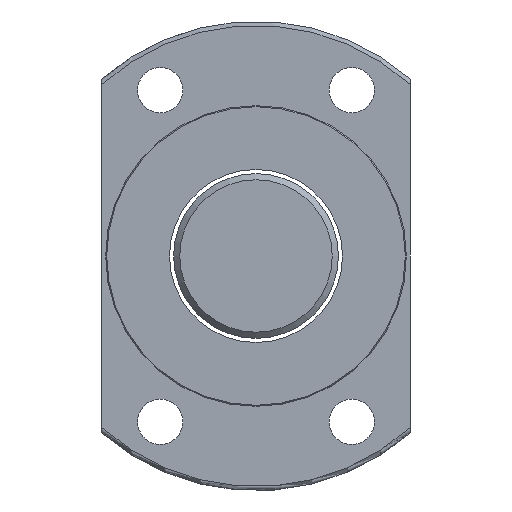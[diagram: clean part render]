
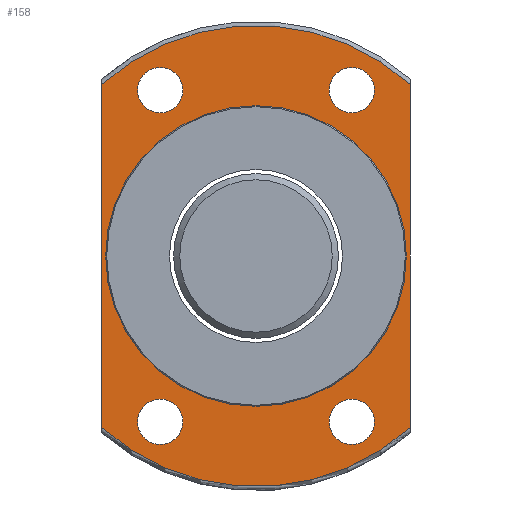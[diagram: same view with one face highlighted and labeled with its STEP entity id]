
A CAD part, left-side view. The second image highlights one B-rep face of the part: STEP entity #158.
In plain terms, the highlighted planar face has unit normal (-1, 0, 0).
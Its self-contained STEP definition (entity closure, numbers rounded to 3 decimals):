
#97=LINE('',#866,#105);
#98=LINE('',#868,#106);
#105=VECTOR('',#693,1.);
#106=VECTOR('',#694,1.);
#158=ADVANCED_FACE('',(#204,#205,#206,#207,#250,#208),#187,.T.);
#187=PLANE('',#598);
#204=FACE_BOUND('',#278,.T.);
#205=FACE_BOUND('',#279,.T.);
#206=FACE_BOUND('',#280,.T.);
#207=FACE_BOUND('',#281,.T.);
#208=FACE_BOUND('',#283,.T.);
#250=FACE_OUTER_BOUND('',#282,.T.);
#278=EDGE_LOOP('',(#355));
#279=EDGE_LOOP('',(#356));
#280=EDGE_LOOP('',(#357));
#281=EDGE_LOOP('',(#358));
#282=EDGE_LOOP('',(#359,#360,#361,#362));
#283=EDGE_LOOP('',(#363));
#355=ORIENTED_EDGE('',*,*,#499,.F.);
#356=ORIENTED_EDGE('',*,*,#500,.F.);
#357=ORIENTED_EDGE('',*,*,#501,.F.);
#358=ORIENTED_EDGE('',*,*,#502,.F.);
#359=ORIENTED_EDGE('',*,*,#503,.F.);
#360=ORIENTED_EDGE('',*,*,#492,.F.);
#361=ORIENTED_EDGE('',*,*,#504,.T.);
#362=ORIENTED_EDGE('',*,*,#505,.F.);
#363=ORIENTED_EDGE('',*,*,#506,.T.);
#445=VERTEX_POINT('',#824);
#447=VERTEX_POINT('',#833);
#452=VERTEX_POINT('',#859);
#453=VERTEX_POINT('',#861);
#454=VERTEX_POINT('',#863);
#455=VERTEX_POINT('',#865);
#456=VERTEX_POINT('',#867);
#457=VERTEX_POINT('',#869);
#458=VERTEX_POINT('',#872);
#492=EDGE_CURVE('',#447,#445,#543,.T.);
#499=EDGE_CURVE('',#452,#452,#546,.T.);
#500=EDGE_CURVE('',#453,#453,#547,.T.);
#501=EDGE_CURVE('',#454,#454,#548,.T.);
#502=EDGE_CURVE('',#455,#455,#549,.T.);
#503=EDGE_CURVE('',#445,#456,#97,.T.);
#504=EDGE_CURVE('',#447,#457,#98,.T.);
#505=EDGE_CURVE('',#456,#457,#550,.T.);
#506=EDGE_CURVE('',#458,#458,#551,.T.);
#543=CIRCLE('',#586,56.);
#546=CIRCLE('',#592,5.5);
#547=CIRCLE('',#593,5.5);
#548=CIRCLE('',#594,5.5);
#549=CIRCLE('',#595,5.5);
#550=CIRCLE('',#596,56.);
#551=CIRCLE('',#597,36.5);
#586=AXIS2_PLACEMENT_3D('',#834,#671,#672);
#592=AXIS2_PLACEMENT_3D('',#858,#685,#686);
#593=AXIS2_PLACEMENT_3D('',#860,#687,#688);
#594=AXIS2_PLACEMENT_3D('',#862,#689,#690);
#595=AXIS2_PLACEMENT_3D('',#864,#691,#692);
#596=AXIS2_PLACEMENT_3D('',#870,#695,#696);
#597=AXIS2_PLACEMENT_3D('',#871,#697,#698);
#598=AXIS2_PLACEMENT_3D('',#873,#699,#700);
#671=DIRECTION('',(1.,0.,0.));
#672=DIRECTION('',(0.,1.,0.));
#685=DIRECTION('',(-1.,0.,0.));
#686=DIRECTION('',(0.,-1.,0.));
#687=DIRECTION('',(-1.,0.,0.));
#688=DIRECTION('',(0.,-1.,0.));
#689=DIRECTION('',(-1.,0.,0.));
#690=DIRECTION('',(0.,-1.,0.));
#691=DIRECTION('',(-1.,0.,0.));
#692=DIRECTION('',(0.,-1.,0.));
#693=DIRECTION('',(0.,0.,1.));
#694=DIRECTION('',(0.,0.,1.));
#695=DIRECTION('',(1.,0.,0.));
#696=DIRECTION('',(0.,1.,0.));
#697=DIRECTION('',(1.,0.,0.));
#698=DIRECTION('',(0.,1.,0.));
#699=DIRECTION('',(-1.,0.,0.));
#700=DIRECTION('',(0.,-1.,0.));
#824=CARTESIAN_POINT('',(-49.5,37.5,-41.59));
#833=CARTESIAN_POINT('',(-49.5,-37.5,-41.59));
#834=CARTESIAN_POINT('',(-49.5,0.,0.));
#858=CARTESIAN_POINT('',(-49.5,23.25,-40.27));
#859=CARTESIAN_POINT('',(-49.5,17.75,-40.27));
#860=CARTESIAN_POINT('',(-49.5,-23.25,-40.27));
#861=CARTESIAN_POINT('',(-49.5,-28.75,-40.27));
#862=CARTESIAN_POINT('',(-49.5,-23.25,40.27));
#863=CARTESIAN_POINT('',(-49.5,-28.75,40.27));
#864=CARTESIAN_POINT('',(-49.5,23.25,40.27));
#865=CARTESIAN_POINT('',(-49.5,17.75,40.27));
#866=CARTESIAN_POINT('',(-49.5,37.5,0.));
#867=CARTESIAN_POINT('',(-49.5,37.5,41.59));
#868=CARTESIAN_POINT('',(-49.5,-37.5,0.));
#869=CARTESIAN_POINT('',(-49.5,-37.5,41.59));
#870=CARTESIAN_POINT('',(-49.5,0.,0.));
#871=CARTESIAN_POINT('',(-49.5,0.,0.));
#872=CARTESIAN_POINT('',(-49.5,36.5,0.));
#873=CARTESIAN_POINT('',(-49.5,46.25,0.));
